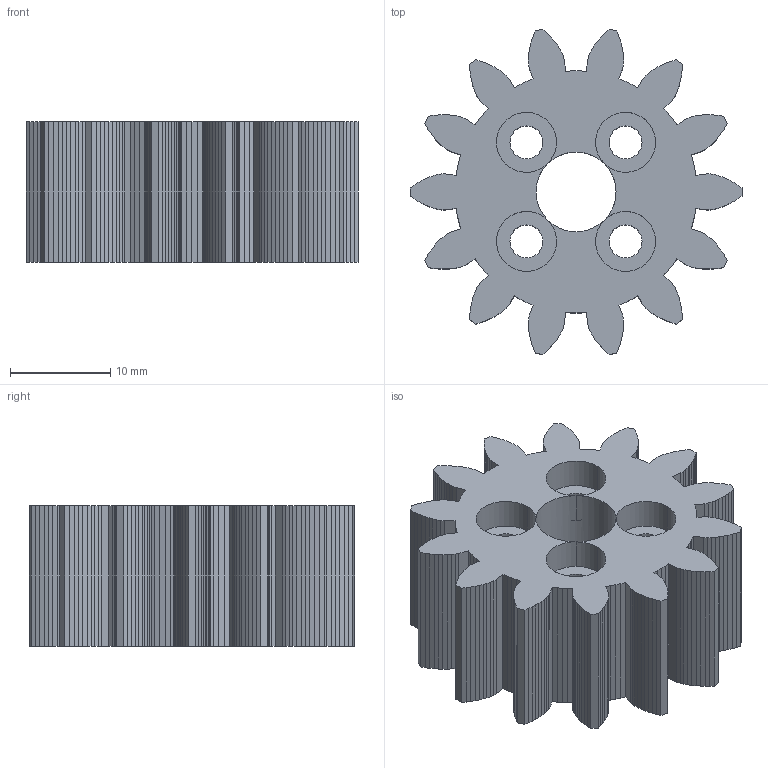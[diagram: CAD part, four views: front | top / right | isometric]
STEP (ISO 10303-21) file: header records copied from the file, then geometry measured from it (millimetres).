
FILE_DESCRIPTION(('Open CASCADE Model'),'2;1');
FILE_NAME('Open CASCADE Shape Model','2026-10-02T23:27:35',('Author'),( 'Open CASCADE'),'Open CASCADE STEP processor 7.9','Open CASCADE 7.9' ,'Unknown');
FILE_SCHEMA(('AUTOMOTIVE_DESIGN { 1 0 10303 214 1 1 1 1 }'));
Length unit declared in the file: millimetre
Products named in the file (1): Open CASCADE STEP translator 7.9 2
Bounding box: 33.19 x 32.53 x 14 mm (x, y, z)
Volume: 7506.1 mm3; surface area: 4647.7 mm2
Topology: 1 solids, 1 shells, 369 faces, 1093 edges, 726 vertices
Faces by surface type: plane 356, cylinder 13
Full cylindrical faces by diameter (mm): 3.3 x4, 8 x1
Entity records: 26404 total; most frequent: CARTESIAN_POINT 4518, DIRECTION 4019, LINE 3211, VECTOR 3211, ORIENTED_EDGE 2186, PCURVE 2186, DEFINITIONAL_REPRESENTATION 2186, EDGE_CURVE 1093
